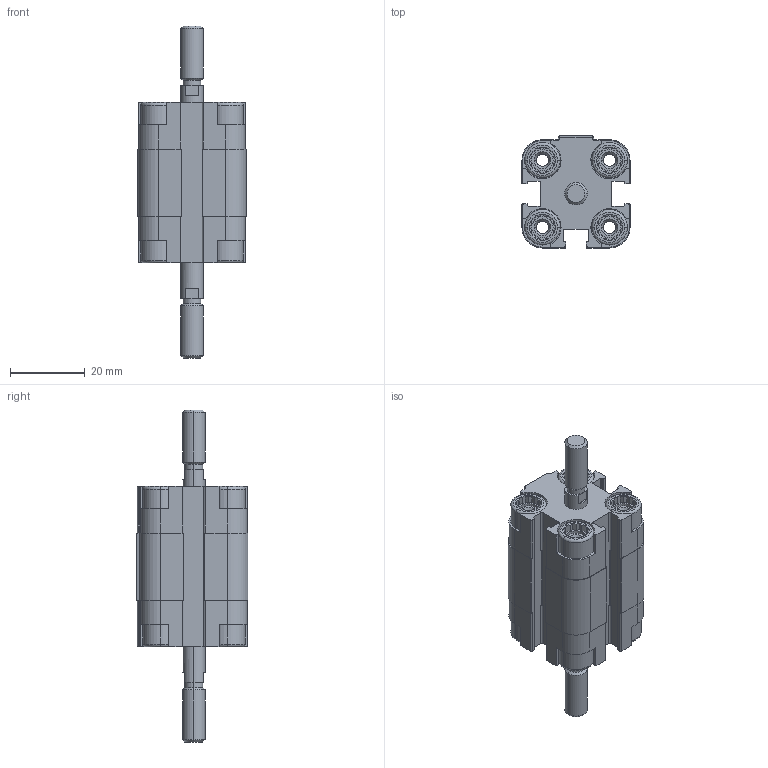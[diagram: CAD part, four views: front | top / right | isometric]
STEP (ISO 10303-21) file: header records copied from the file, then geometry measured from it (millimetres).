
FILE_DESCRIPTION (( 'STEP AP203' ), '1' );
FILE_NAME ('CDVU12-5M-P.STEP', '2020-07-21T14:55:10', ( '' ), ( '' ), 'SwSTEP 2.0', 'SolidWorks 2019', '' );
FILE_SCHEMA (( 'CONFIG_CONTROL_DESIGN' ));
Length unit declared in the file: millimetre
Products named in the file (1): CDVU12-5M-P
Bounding box: 29 x 30 x 89 mm (x, y, z)
Volume: 28372.9 mm3; surface area: 14834.9 mm2
Topology: 2 solids, 2 shells, 566 faces, 1504 edges, 978 vertices
Faces by surface type: plane 338, cylinder 164, cone 48, torus 16
Entity records: 17771 total; most frequent: CARTESIAN_POINT 3621, ORIENTED_EDGE 3000, DIRECTION 2850, EDGE_CURVE 1500, VERTEX_POINT 978, AXIS2_PLACEMENT_3D 975, LINE 900, VECTOR 900
